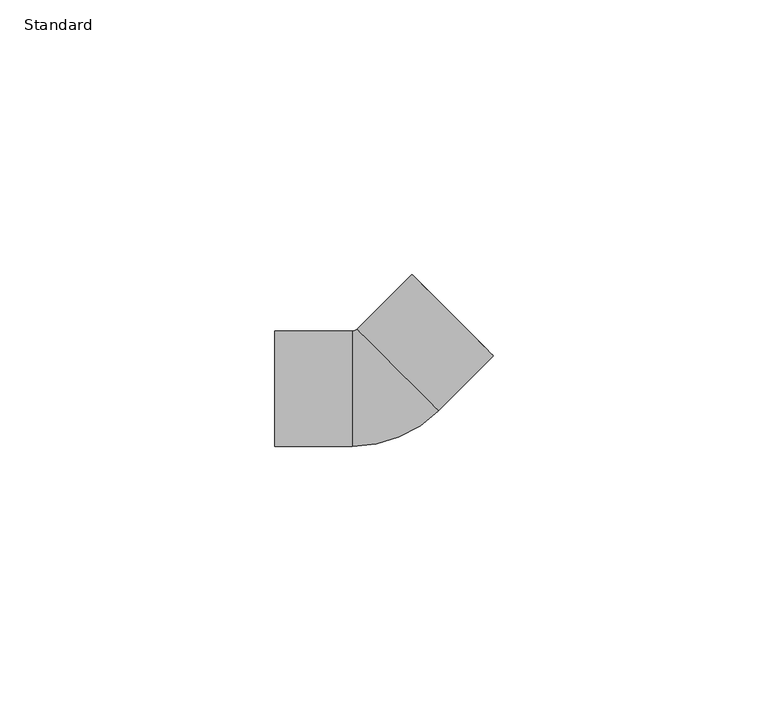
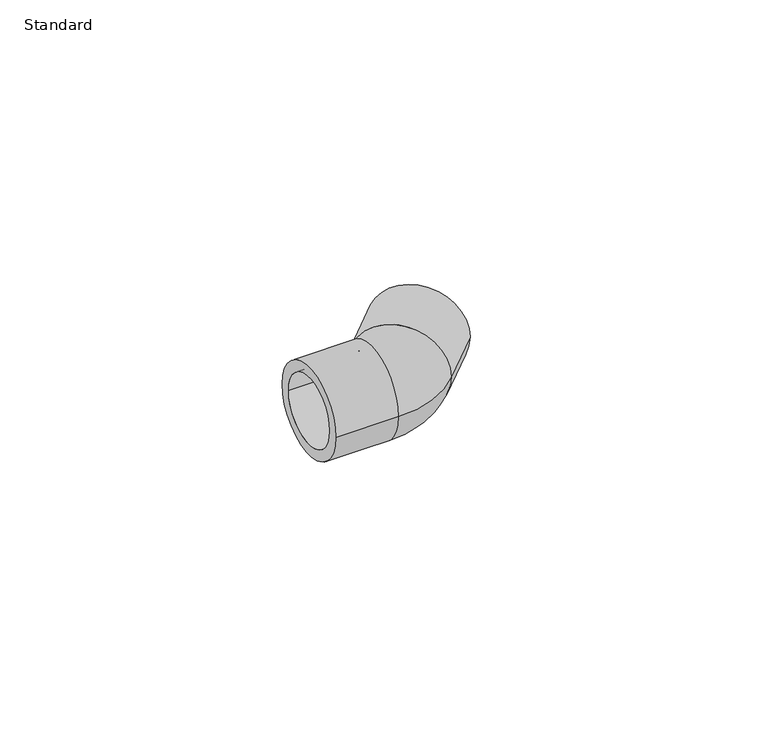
"""IFC4 building model written with IfcOpenShell, lengths in millimetres: pipe fitting geometry, Durapipe_PipeFitting_PVC_Elbow45deg : Standard."""

from ifc_helpers import new_model, si_unit, point, frame, origin, place, context, project, spatial, polyline, circle_curve, ellipse_curve, trimmed, source, transform, mapped, element, save
from ifc_brep_helpers import plane_surface, cylinder_surface, revolved_surface, advanced_brep


def standard_bbab947c(model_context):
    return source(origin(), model_context, "Body", "AdvancedBrep", [
        advanced_brep(
        [(-19.0, -10.5, 0.0), (-19.0, 10.5, 0.0), (-19.0, -8.0, 0.0), (-19.0, 8.0, 0.0), (-4.8492424, -10.5, 0.0), (-4.8492424, 10.5, 0.0), (10.8535534, -3.995689, 0.0), (-3.995689, 10.8535534, 0.0), (20.85965, 6.0104076, 0.0), (6.0104076, 20.85965, 0.0), (7.7781746, 19.0918831, 0.0), (19.0918831, 7.7781746, 0.0), (-5.0, 8.0, 0.0), (-5.0, -8.0, 0.0), (-5.0, 0.0, 0.0), (-2.1213203, 9.1923882, 0.0), (3.5355339, 3.5355339, 0.0), (9.1923882, -2.1213203, 0.0)],
        [
            (0, 1, circle_curve(frame((-19.0, 0.0, 0.0), z_axis=(-1.0, 0.0, 0.0), x_axis=(0.0, 1.0, 0.0)), 10.5)),
            (1, 0, circle_curve(frame((-19.0, 0.0, 0.0), z_axis=(-1.0, 0.0, 0.0), x_axis=(0.0, 1.0, 0.0)), 10.5)),
            (2, 3, circle_curve(frame((-19.0, 0.0, 0.0), z_axis=(1.0, 0.0, 0.0), x_axis=(0.0, -1.0, 0.0)), 8.0)),
            (3, 2, circle_curve(frame((-19.0, 0.0, 0.0), z_axis=(1.0, 0.0, 0.0), x_axis=(0.0, -1.0, 0.0)), 8.0)),
            (0, 4),
            (4, 5, circle_curve(frame((-4.8492424, 0.0, 0.0), z_axis=(-1.0, 0.0, 0.0), x_axis=(0.0, 1.0, 0.0)), 10.5)),
            (5, 1),
            (5, 4, circle_curve(frame((-4.8492424, 0.0, 0.0), z_axis=(-1.0, 0.0, 0.0), x_axis=(0.0, 1.0, 0.0)), 10.5)),
            (4, 6, circle_curve(frame((-4.8492424, 11.7071068, 0.0), z_axis=(0.0, 0.0, 1.0), x_axis=(0.0, -1.0, 0.0)), 22.2071068)),
            (6, 7, circle_curve(frame((3.4289322, 3.4289322, 0.0), z_axis=(-0.707106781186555, -0.70710678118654, 0.0), x_axis=(-0.70710678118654, 0.707106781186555, 0.0)), 10.5)),
            (7, 5, circle_curve(frame((-4.8492424, 11.7071068, 0.0), z_axis=(0.0, 0.0, -1.0), x_axis=(0.0, -1.0, 0.0)), 1.2071068)),
            (7, 6, circle_curve(frame((3.4289322, 3.4289322, 0.0), z_axis=(-0.7071067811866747, -0.7071067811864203, 0.0), x_axis=(-0.7071067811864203, 0.7071067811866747, 0.0)), 10.5)),
            (8, 9, circle_curve(frame((13.4350288, 13.4350288, 0.0), z_axis=(0.7071067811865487, 0.7071067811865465, 0.0), x_axis=(-0.7071067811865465, 0.7071067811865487, 0.0)), 10.5)),
            (9, 8, circle_curve(frame((13.4350288, 13.4350288, 0.0), z_axis=(0.7071067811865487, 0.7071067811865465, 0.0), x_axis=(-0.7071067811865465, 0.7071067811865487, 0.0)), 10.5)),
            (10, 11, circle_curve(frame((13.4350288, 13.4350288, 0.0), z_axis=(-0.707106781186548, -0.7071067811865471, 0.0), x_axis=(0.7071067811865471, -0.707106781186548, 0.0)), 8.0)),
            (11, 10, circle_curve(frame((13.4350288, 13.4350288, 0.0), z_axis=(-0.707106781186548, -0.7071067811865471, 0.0), x_axis=(0.7071067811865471, -0.707106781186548, 0.0)), 8.0)),
            (6, 8),
            (9, 7),
            (12, 3),
            (2, 13),
            (13, 12, circle_curve(frame((-5.0, 0.0, 0.0), z_axis=(1.0, 0.0, 0.0), x_axis=(0.0, -1.0, 0.0)), 8.0)),
            (12, 13, circle_curve(frame((-5.0, 0.0, 0.0), z_axis=(1.0, 0.0, 0.0), x_axis=(0.0, -1.0, 0.0)), 8.0)),
            (13, 14),
            (14, 12),
            (15, 16),
            (16, 17),
            (17, 15, circle_curve(frame((3.5355339, 3.5355339, 0.0), z_axis=(0.707106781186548, 0.7071067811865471, 0.0), x_axis=(0.7071067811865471, -0.707106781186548, 0.0)), 8.0)),
            (15, 17, circle_curve(frame((3.5355339, 3.5355339, 0.0), z_axis=(0.707106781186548, 0.7071067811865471, 0.0), x_axis=(0.7071067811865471, -0.707106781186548, 0.0)), 8.0)),
            (17, 11),
            (10, 15),
        ],
        [
            plane_surface(frame((-19.0, 0.0, 0.0), z_axis=(-1.0, 0.0, 0.0), x_axis=(0.0, 0.0, 1.0))),
            cylinder_surface(frame((-19.0, 0.0, 0.0), z_axis=(-1.0, 0.0, 0.0), x_axis=(0.0, 1.0, 0.0)), 10.5),
            revolved_surface(trimmed(ellipse_curve(frame((-4.8492424, 0.0, 0.0), z_axis=(-1.0, 0.0, 0.0), x_axis=(0.0, 1.0, 0.0)), 10.5, 10.5), [point((-4.8492424, -10.5, 0.0))], [point((-4.8492424, 10.5, 0.0))], True, "CARTESIAN"), (-4.8492424, 11.7071068, 0.0), (0.0, 0.0, 1.0)),
            revolved_surface(trimmed(ellipse_curve(frame((-4.8492424, 0.0, 0.0), z_axis=(-1.0, 0.0, 0.0), x_axis=(0.0, 1.0, 0.0)), 10.5, 10.5), [point((-4.8492424, 10.5, 0.0))], [point((-4.8492424, -10.5, 0.0))], True, "CARTESIAN"), (-4.8492424, 11.7071068, 0.0), (0.0, 0.0, 1.0)),
            plane_surface(frame((13.4350288, 13.4350288, 0.0), z_axis=(0.7071067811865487, 0.7071067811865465, 0.0), x_axis=(0.0, 0.0, 1.0))),
            cylinder_surface(frame((3.4289322, 3.4289322, 0.0), z_axis=(-0.7071067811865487, -0.7071067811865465, 0.0), x_axis=(-0.7071067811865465, 0.7071067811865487, 0.0)), 10.5),
            revolved_surface(polyline([(-5.0, -8.0, 0.0), (-19.0, -8.0, 0.0)]), (2000.0, 0.0, 0.0), (1.0, 0.0, 0.0)),
            plane_surface(frame((-5.0, 0.0, 0.0), z_axis=(-1.0, 0.0, 0.0), x_axis=(0.0, -1.0, 0.0))),
            plane_surface(frame((3.5355339, 3.5355339, 0.0), z_axis=(0.707106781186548, 0.7071067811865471, 0.0), x_axis=(0.7071067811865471, -0.707106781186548, 0.0))),
            revolved_surface(polyline([(19.091883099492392, 7.778174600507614, 0.0), (9.19238814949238, -2.121320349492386, 0.0)]), (0.0, 0.0, 0.0), (0.707106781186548, 0.7071067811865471, 0.0)),
        ],
        [
            (0, [[1, 2], [3, 4]]),
            (1, [[-1, 5, 6, 7]]),
            (1, [[-2, -7, 8, -5]]),
            (2, [[-6, 9, 10, 11]]),
            (3, [[-8, -11, 12, -9]]),
            (4, [[13, 14], [15, 16]]),
            (5, [[-10, 17, -14, 18]]),
            (5, [[-12, -18, -13, -17]]),
            (6, [[19, -3, 20, 21]]),
            (6, [[-19, 22, -20, -4]]),
            (7, [[-21, 23, 24]]),
            (7, [[-22, -24, -23]]),
            (8, [[25, 26, 27]]),
            (8, [[-25, 28, -26]]),
            (9, [[-27, 29, -15, 30]]),
            (9, [[-28, -30, -16, -29]]),
        ],
    ),
    ])


if __name__ == "__main__":
    model = new_model("IFC4")
    model_context = context("Model", 3, world=origin())
    ifc_project = project(units=[si_unit("LENGTHUNIT", "METRE", prefix="MILLI")], contexts=[model_context])
    site = spatial("IfcSite", under=ifc_project)
    building = spatial("IfcBuilding", under=site)
    placement = place(None, origin())
    standard_shape = standard_bbab947c(model_context)
    element("IfcPipeFitting", 1, ObjectType="Durapipe_PipeFitting_PVC_Elbow45deg : Standard", at=placement, inside=building, context=model_context, shape_type="MappedRepresentation", body=[
        mapped(standard_shape, transform((0.0, 0.0, 0.0), x_axis=(1.0, 0.0, 0.0), y_axis=(0.0, 1.0, 0.0), z_axis=(0.0, 0.0, 1.0))),
    ])
    save(model, "model.ifc")
